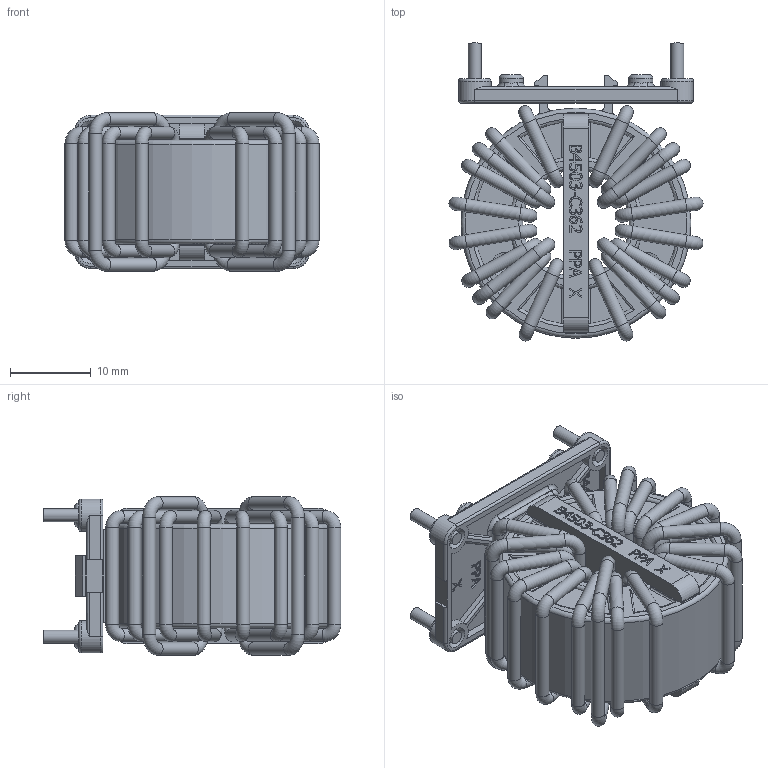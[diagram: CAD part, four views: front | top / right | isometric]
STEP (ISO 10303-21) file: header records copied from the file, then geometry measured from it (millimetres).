
FILE_DESCRIPTION(/* description */ (''),/* implementation_level */ '2;1');
FILE_NAME(/* name */ 'G:\KB-FTKon\CAD\Inventor\Bauelementnummer\6127-X008\6127-X008_Shrinkwrap_1.stp',/* time_stamp */ '2019-04-30T10:52:24+02:00',/* author */ ('de041100'),/* organization */ (''),/* preprocessor_version */ 'ST-DEVELOPER v17.2',/* originating_system */ 'Autodesk Inventor 2019',/* authorisation */ '');
FILE_SCHEMA (('AUTOMOTIVE_DESIGN { 1 0 10303 214 3 1 1 }'));
Length unit declared in the file: millimetre
Products named in the file (1): 6127-X008_Shrinkwrap_1
Bounding box: 31.41 x 36.8 x 19.6 mm (x, y, z)
Volume: 9853.4 mm3; surface area: 10336.8 mm2
Topology: 21 solids, 21 shells, 1306 faces, 3741 edges, 2494 vertices
Faces by surface type: plane 550, bspline 401, cylinder 205, torus 140, sphere 6, cone 4
Full cylindrical faces by diameter (mm): 1.6 x80, 1.7 x4, 3 x4, 4 x4, 13.2 x1, 14.4 x1, 27.2 x1, 28.4 x1
Entity records: 47807 total; most frequent: CARTESIAN_POINT 14242, ORIENTED_EDGE 7472, DIRECTION 5526, EDGE_CURVE 3736, VERTEX_POINT 2494, LINE 1918, VECTOR 1918, AXIS2_PLACEMENT_3D 1804
